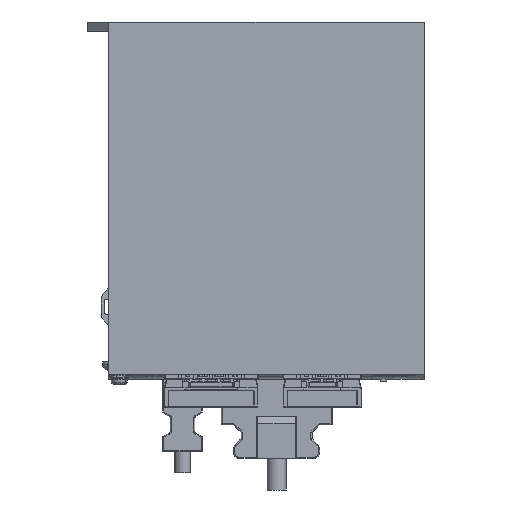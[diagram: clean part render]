
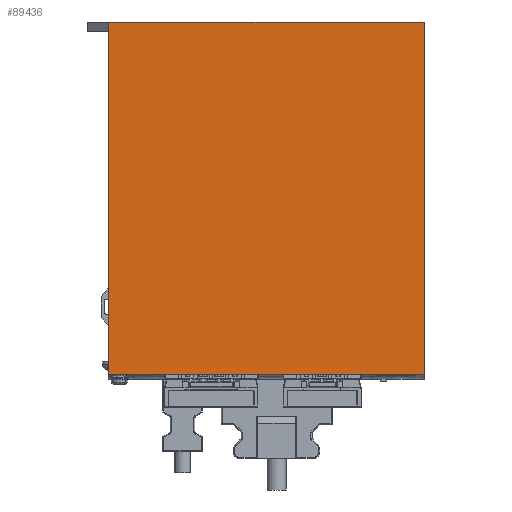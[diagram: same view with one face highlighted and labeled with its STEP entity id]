
A CAD part, front view. The second image highlights one B-rep face of the part: STEP entity #89436.
In plain terms, the highlighted planar face has unit normal (0, -1, 0).
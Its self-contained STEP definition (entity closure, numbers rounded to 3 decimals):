
#1018 = DIRECTION ( 'NONE',  ( -1., 0., 0. ) ) ;
#3090 = DIRECTION ( 'NONE',  ( 1., 0., 0. ) ) ;
#6197 = LINE ( 'NONE', #9200, #105843 ) ;
#9200 = CARTESIAN_POINT ( 'NONE',  ( 0., 0., -79.5 ) ) ;
#10988 = LINE ( 'NONE', #91822, #78017 ) ;
#11998 = DIRECTION ( 'NONE',  ( 0., 0., 1. ) ) ;
#15476 = ORIENTED_EDGE ( 'NONE', *, *, #22227, .T. ) ;
#22227 = EDGE_CURVE ( 'NONE', #135676, #76775, #48883, .T. ) ;
#25695 = CARTESIAN_POINT ( 'NONE',  ( 0., 0., 88. ) ) ;
#29010 = VECTOR ( 'NONE', #43311, 1000. ) ;
#32885 = DIRECTION ( 'NONE',  ( 0., 0., -1. ) ) ;
#34199 = CARTESIAN_POINT ( 'NONE',  ( -140., 0., -79.3 ) ) ;
#35737 = EDGE_CURVE ( 'NONE', #104164, #127894, #124305, .T. ) ;
#36646 = EDGE_CURVE ( 'NONE', #70554, #71269, #6197, .T. ) ;
#43311 = DIRECTION ( 'NONE',  ( 0., 0., -1. ) ) ;
#44342 = CARTESIAN_POINT ( 'NONE',  ( -150., 0., -79.7 ) ) ;
#48540 = CARTESIAN_POINT ( 'NONE',  ( -150., 0., 88. ) ) ;
#48883 = LINE ( 'NONE', #67623, #29010 ) ;
#50588 = ORIENTED_EDGE ( 'NONE', *, *, #35737, .T. ) ;
#53504 = VECTOR ( 'NONE', #11998, 1000. ) ;
#53769 = CARTESIAN_POINT ( 'NONE',  ( 0., 0., -79.5 ) ) ;
#54667 = ORIENTED_EDGE ( 'NONE', *, *, #127250, .T. ) ;
#63800 = CARTESIAN_POINT ( 'NONE',  ( -150., 0., -79.5 ) ) ;
#67623 = CARTESIAN_POINT ( 'NONE',  ( -150., 0., -79.5 ) ) ;
#70554 = VERTEX_POINT ( 'NONE', #25695 ) ;
#71269 = VERTEX_POINT ( 'NONE', #53769 ) ;
#72452 = VECTOR ( 'NONE', #3090, 1000. ) ;
#75422 = DIRECTION ( 'NONE',  ( 0., 0., -1. ) ) ;
#76775 = VERTEX_POINT ( 'NONE', #44342 ) ;
#78017 = VECTOR ( 'NONE', #104962, 1000. ) ;
#81173 = EDGE_LOOP ( 'NONE', ( #50588, #54667, #94178, #139336, #15476, #100964 ) ) ;
#89436 = ADVANCED_FACE ( 'NONE', ( #130384 ), #108893, .T. ) ;
#91822 = CARTESIAN_POINT ( 'NONE',  ( -150., 0., -79.5 ) ) ;
#92922 = AXIS2_PLACEMENT_3D ( 'NONE', #63800, #98230, #75422 ) ;
#94178 = ORIENTED_EDGE ( 'NONE', *, *, #36646, .F. ) ;
#98230 = DIRECTION ( 'NONE',  ( 0., -1., 0. ) ) ;
#100964 = ORIENTED_EDGE ( 'NONE', *, *, #133488, .F. ) ;
#103744 = CARTESIAN_POINT ( 'NONE',  ( -150., 0., -79.7 ) ) ;
#104164 = VERTEX_POINT ( 'NONE', #112463 ) ;
#104962 = DIRECTION ( 'NONE',  ( 1., 0., 0. ) ) ;
#105843 = VECTOR ( 'NONE', #32885, 1000. ) ;
#107756 = VECTOR ( 'NONE', #1018, 1000. ) ;
#108893 = PLANE ( 'NONE',  #92922 ) ;
#112463 = CARTESIAN_POINT ( 'NONE',  ( -140., 0., -79.7 ) ) ;
#116479 = CARTESIAN_POINT ( 'NONE',  ( -140., 0., -79.5 ) ) ;
#116781 = CARTESIAN_POINT ( 'NONE',  ( -150., 0., 88. ) ) ;
#119622 = EDGE_CURVE ( 'NONE', #135676, #70554, #121475, .T. ) ;
#121475 = LINE ( 'NONE', #48540, #72452 ) ;
#124305 = LINE ( 'NONE', #34199, #53504 ) ;
#127250 = EDGE_CURVE ( 'NONE', #127894, #71269, #10988, .T. ) ;
#127894 = VERTEX_POINT ( 'NONE', #116479 ) ;
#130384 = FACE_OUTER_BOUND ( 'NONE', #81173, .T. ) ;
#133488 = EDGE_CURVE ( 'NONE', #104164, #76775, #140300, .T. ) ;
#135676 = VERTEX_POINT ( 'NONE', #116781 ) ;
#139336 = ORIENTED_EDGE ( 'NONE', *, *, #119622, .F. ) ;
#140300 = LINE ( 'NONE', #103744, #107756 ) ;
